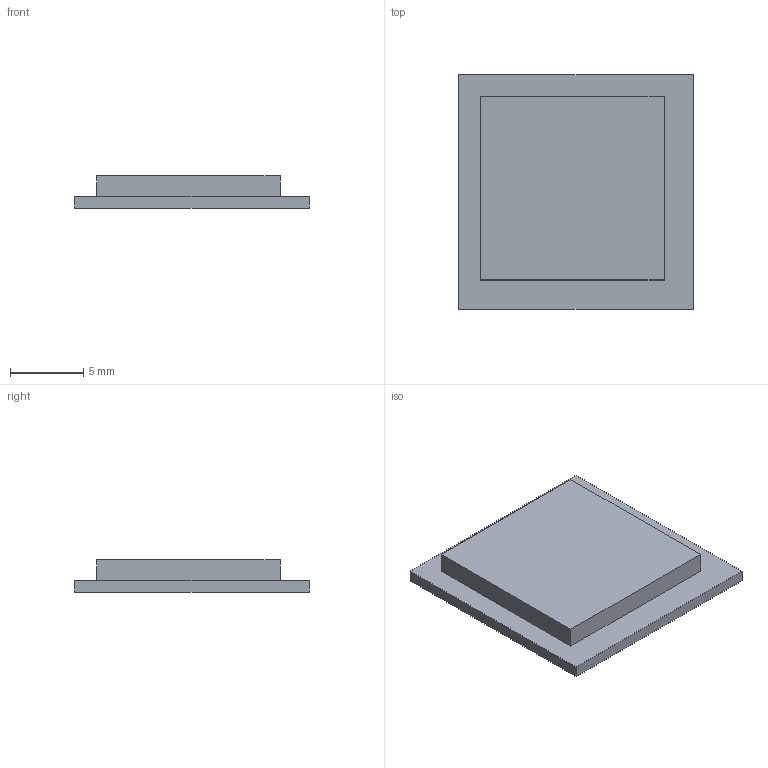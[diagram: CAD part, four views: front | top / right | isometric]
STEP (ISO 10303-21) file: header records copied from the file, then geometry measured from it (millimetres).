
FILE_DESCRIPTION(('Open CASCADE Model'),'2;1');
FILE_NAME('Open CASCADE Shape Model','2026-10-12T20:38:35',('Author'),( 'Open CASCADE'),'Open CASCADE STEP processor 8.0','build123d', 'Unknown');
FILE_SCHEMA(('AUTOMOTIVE_DESIGN { 1 0 10303 214 1 1 1 1 }'));
Length unit declared in the file: millimetre
Products named in the file (3): COMPOUND
Assembly tree (2 placements, depth 2):
  COMPOUND
    COMPOUND
    COMPOUND
Bounding box: 16 x 16 x 2.2 mm (x, y, z)
Volume: 423.5 mm3; surface area: 945.7 mm2
Topology: 2 solids, 2 shells, 12 faces, 24 edges, 16 vertices
Faces by surface type: plane 12
Entity records: 694 total; most frequent: CARTESIAN_POINT 103, DIRECTION 102, LINE 72, VECTOR 72, ORIENTED_EDGE 48, PCURVE 48, DEFINITIONAL_REPRESENTATION 48, EDGE_CURVE 24
